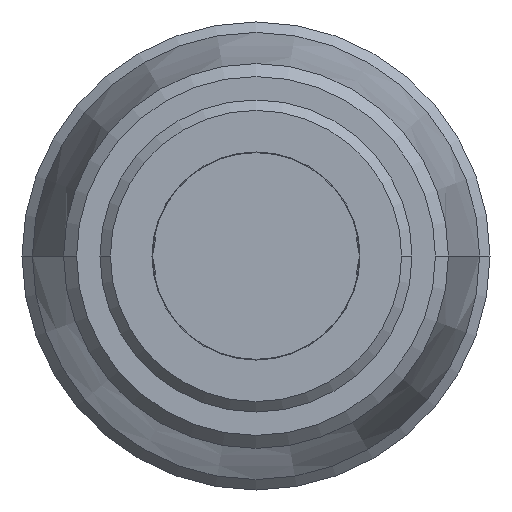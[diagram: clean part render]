
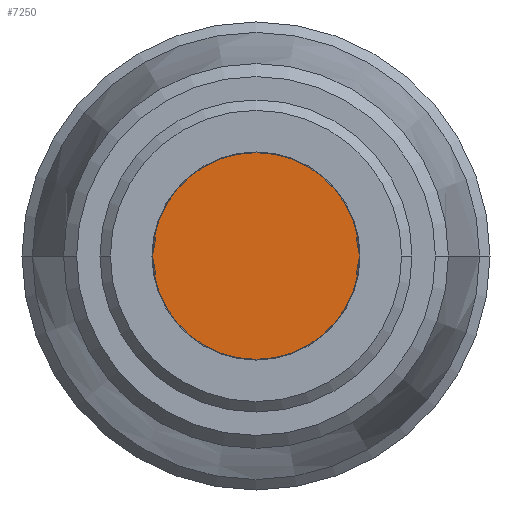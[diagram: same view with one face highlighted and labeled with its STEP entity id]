
A CAD part, left-side view. The second image highlights one B-rep face of the part: STEP entity #7250.
In plain terms, the highlighted planar face has unit normal (-1, 0, 0).
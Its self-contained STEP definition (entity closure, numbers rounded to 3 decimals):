
#7050=CARTESIAN_POINT('',(-24.818,2.,0.));
#7060=DIRECTION('',(-1.,0.,0.));
#7070=DIRECTION('',(0.,1.,0.));
#7080=AXIS2_PLACEMENT_3D('',#7050,#7060,#7070);
#7090=PLANE('',#7080);
#7100=CARTESIAN_POINT('',(-24.818,0.,0.));
#7110=DIRECTION('',(1.,0.,0.));
#7120=DIRECTION('',(0.,-1.,0.));
#7130=AXIS2_PLACEMENT_3D('',#7100,#7110,#7120);
#7140=CIRCLE('',#7130,3.975);
#7150=CARTESIAN_POINT('',(-24.818,-3.975,0.));
#7160=VERTEX_POINT('',#7150);
#7170=CARTESIAN_POINT('',(-24.818,3.975,0.)
);
#7180=VERTEX_POINT('',#7170);
#7190=EDGE_CURVE('',#7160,#7180,#7140,.T.);
#7200=ORIENTED_EDGE('',*,*,#7190,.F.);
#7210=EDGE_CURVE('',#7180,#7160,#7140,.T.);
#7220=ORIENTED_EDGE('',*,*,#7210,.F.);
#7230=EDGE_LOOP('',(#7220,#7200));
#7240=FACE_OUTER_BOUND('',#7230,.T.);
#7250=ADVANCED_FACE('',(#7240),#7090,.T.);
